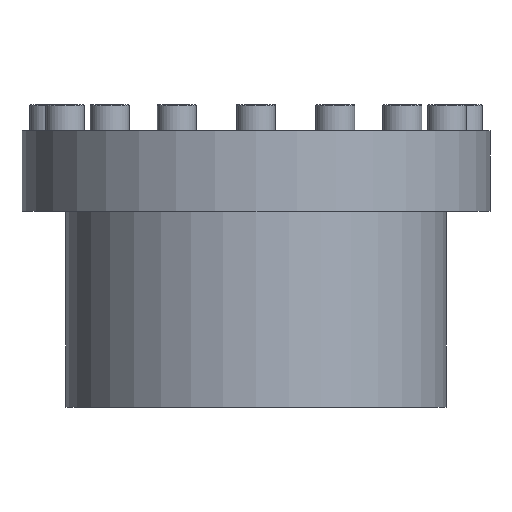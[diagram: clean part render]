
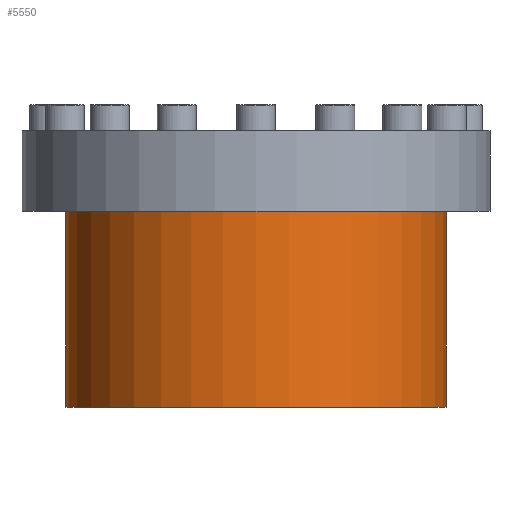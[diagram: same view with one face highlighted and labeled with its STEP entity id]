
A CAD part, front view. The second image highlights one B-rep face of the part: STEP entity #5550.
In plain terms, the highlighted cylindrical face has radius 87.4 mm (diameter 174.8 mm), a partial arc.
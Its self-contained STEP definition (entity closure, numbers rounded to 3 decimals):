
#534 = VERTEX_POINT ( 'NONE', #4978 ) ;
#657 = EDGE_LOOP ( 'NONE', ( #4647, #2988, #4869, #1852 ) ) ;
#661 = CARTESIAN_POINT ( 'NONE',  ( -87.4, 0., 0. ) ) ;
#683 = FACE_OUTER_BOUND ( 'NONE', #657, .T. ) ;
#724 = DIRECTION ( 'NONE',  ( 0., 0., 1. ) ) ;
#725 = DIRECTION ( 'NONE',  ( 1., 0., 0. ) ) ;
#904 = DIRECTION ( 'NONE',  ( 1., 0., 0. ) ) ;
#1363 = DIRECTION ( 'NONE',  ( 0., 0., 1. ) ) ;
#1492 = DIRECTION ( 'NONE',  ( 0., 0., 1. ) ) ;
#1852 = ORIENTED_EDGE ( 'NONE', *, *, #2896, .F. ) ;
#2260 = EDGE_CURVE ( 'NONE', #5574, #5504, #5195, .T. ) ;
#2878 = CARTESIAN_POINT ( 'NONE',  ( -87.4, 0., -37. ) ) ;
#2896 = EDGE_CURVE ( 'NONE', #5504, #534, #3141, .T. ) ;
#2897 = CARTESIAN_POINT ( 'NONE',  ( 87.4, 0., 0. ) ) ;
#2988 = ORIENTED_EDGE ( 'NONE', *, *, #3099, .T. ) ;
#3099 = EDGE_CURVE ( 'NONE', #5574, #5588, #5314, .T. ) ;
#3141 = CIRCLE ( 'NONE', #4378, 87.4 ) ;
#3716 = CARTESIAN_POINT ( 'NONE',  ( 0., 0., -127. ) ) ;
#3751 = DIRECTION ( 'NONE',  ( 0., 0., 1. ) ) ;
#3753 = CARTESIAN_POINT ( 'NONE',  ( 0., 0., 0. ) ) ;
#3940 = LINE ( 'NONE', #2897, #5761 ) ;
#4087 = CYLINDRICAL_SURFACE ( 'NONE', #5151, 87.4 ) ;
#4378 = AXIS2_PLACEMENT_3D ( 'NONE', #4772, #5594, #725 ) ;
#4647 = ORIENTED_EDGE ( 'NONE', *, *, #2260, .F. ) ;
#4713 = VECTOR ( 'NONE', #3751, 1000. ) ;
#4772 = CARTESIAN_POINT ( 'NONE',  ( 0., 0., -37. ) ) ;
#4869 = ORIENTED_EDGE ( 'NONE', *, *, #5702, .T. ) ;
#4978 = CARTESIAN_POINT ( 'NONE',  ( 87.4, 0., -37. ) ) ;
#5078 = DIRECTION ( 'NONE',  ( 1., 0., 0. ) ) ;
#5151 = AXIS2_PLACEMENT_3D ( 'NONE', #3753, #1492, #5078 ) ;
#5172 = CARTESIAN_POINT ( 'NONE',  ( 87.4, 0., -127. ) ) ;
#5195 = LINE ( 'NONE', #661, #4713 ) ;
#5314 = CIRCLE ( 'NONE', #5556, 87.4 ) ;
#5484 = CARTESIAN_POINT ( 'NONE',  ( -87.4, 0., -127. ) ) ;
#5504 = VERTEX_POINT ( 'NONE', #2878 ) ;
#5550 = ADVANCED_FACE ( 'NONE', ( #683 ), #4087, .T. ) ;
#5556 = AXIS2_PLACEMENT_3D ( 'NONE', #3716, #1363, #904 ) ;
#5574 = VERTEX_POINT ( 'NONE', #5484 ) ;
#5588 = VERTEX_POINT ( 'NONE', #5172 ) ;
#5594 = DIRECTION ( 'NONE',  ( 0., 0., 1. ) ) ;
#5702 = EDGE_CURVE ( 'NONE', #5588, #534, #3940, .T. ) ;
#5761 = VECTOR ( 'NONE', #724, 1000. ) ;
